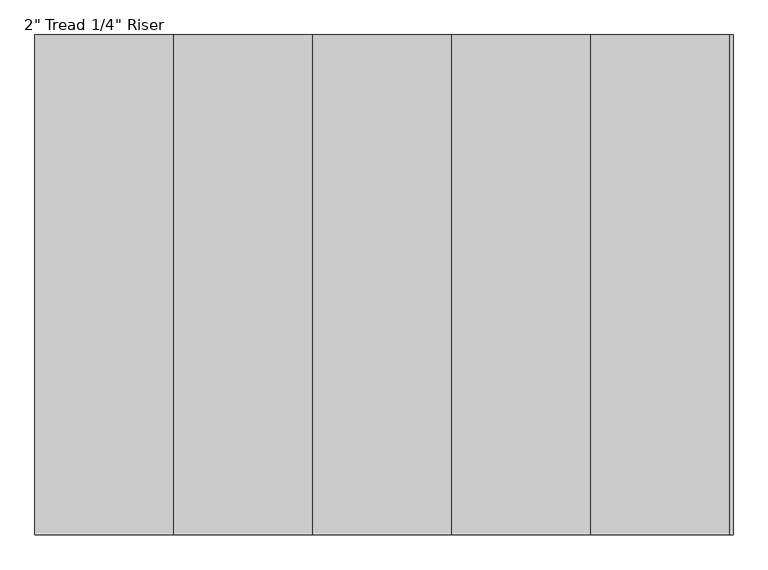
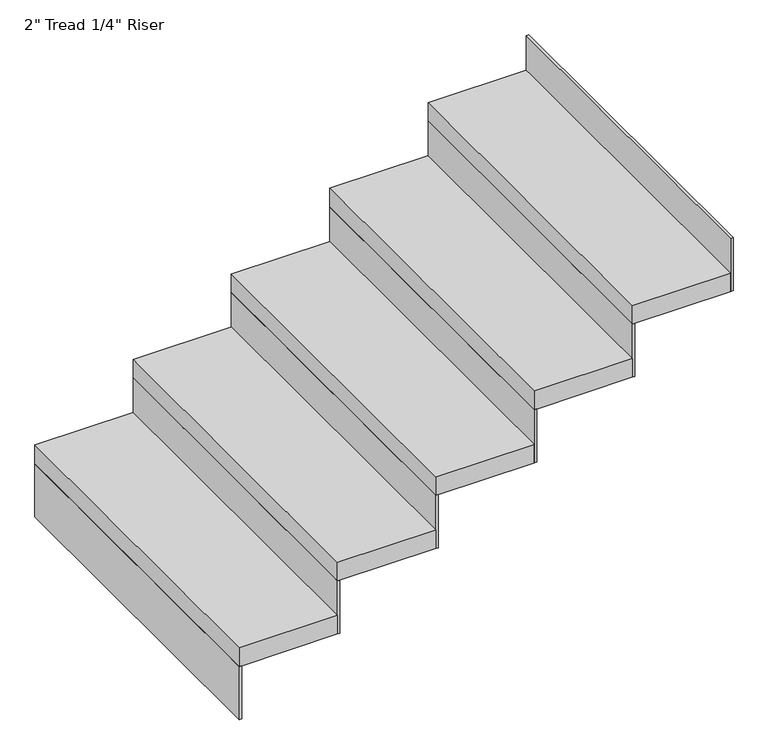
"""IFC4 building model written with IfcOpenShell, lengths in millimetres: stair flight geometry."""

import ifcopenshell
import ifcopenshell.guid

model = None  # the IFC model being written
_history = None  # IfcOwnerHistory: only IFC2X3 demands one
_inside = {}  # id of a spatial element -> (the spatial element, [elements in it])
_under = {}  # id of a project, library or spatial element -> (it, [spatial elements below it])
_declared = {}  # id of a project -> (the project, [libraries it declares])
_typed = {}  # id of a type object -> (the type object, [elements of that type])
_made_of = {}  # id of a material, layer set ... -> (it, [elements and type objects made of it])


def new_model(schema):
    """Start an empty IFC model of exactly this schema.

    Asked for "IFC4X3", IfcOpenShell would pick the latest addendum, in which some entities
    have other attributes; the version numbers below select the first issue.
    IFC2X3 requires an IfcOwnerHistory on every rooted entity: one is made here for all.
    """
    global model, _history
    if schema == "IFC4X3":
        model = ifcopenshell.file(schema_version=(4, 3, 0, 0))
    else:
        model = ifcopenshell.file(schema=schema)
    _inside.clear()
    _under.clear()
    _declared.clear()
    _typed.clear()
    _made_of.clear()
    _history = None
    if model.schema == "IFC2X3":
        org = make("IfcOrganization", Name="unknown")
        user = make(
            "IfcPersonAndOrganization",
            ThePerson=make("IfcPerson", FamilyName="unknown"),
            TheOrganization=org,
        )
        app = make(
            "IfcApplication",
            ApplicationDeveloper=org,
            Version="unknown",
            ApplicationFullName="unknown",
            ApplicationIdentifier="unknown",
        )
        _history = make(
            "IfcOwnerHistory",
            OwningUser=user,
            OwningApplication=app,
            ChangeAction="ADDED",
            CreationDate=0,
        )
    return model


def make(cls, **values):
    """One entity of the class cls with the attributes given. An attribute that is None is left unset."""
    return model.create_entity(
        cls, **{name: value for name, value in values.items() if value is not None}
    )


def rooted(cls, **values):
    """An entity with a GlobalId (a new one), such as an element, a storey or a relation."""
    return make(cls, GlobalId=ifcopenshell.guid.new(), OwnerHistory=_history, **values)


def si_unit(unit_type, name, prefix=None):
    """IfcSIUnit, for example si_unit("LENGTHUNIT", "METRE", prefix="MILLI")."""
    return make("IfcSIUnit", UnitType=unit_type, Prefix=prefix, Name=name)


def assignment(units):
    """IfcUnitAssignment: the units of a project."""
    return None if units is None else make("IfcUnitAssignment", Units=units)


def point(xyz):
    """IfcCartesianPoint."""
    return None if xyz is None else make("IfcCartesianPoint", Coordinates=xyz)


def direction(xyz):
    """IfcDirection."""
    return None if xyz is None else make("IfcDirection", DirectionRatios=xyz)


def frame(location, z_axis=None, x_axis=None):
    """IfcAxis2Placement3D, a coordinate frame: its origin and axes. An axis left out is left unset."""
    return make(
        "IfcAxis2Placement3D",
        Location=point(location),
        Axis=direction(z_axis),
        RefDirection=direction(x_axis),
    )


def origin():
    """The frame at (0, 0, 0) with its axes left unset."""
    return frame((0.0, 0.0, 0.0))


def place(relative_to, where):
    """IfcLocalPlacement: puts the frame where relative to a parent placement (None: the world)."""
    return make(
        "IfcLocalPlacement", PlacementRelTo=relative_to, RelativePlacement=where
    )


def context(
    kind, dimensions, precision=None, world=None, true_north=None, identifier=None
):
    """IfcGeometricRepresentationContext, for example the 3D "Model" context."""
    return make(
        "IfcGeometricRepresentationContext",
        ContextIdentifier=identifier,
        ContextType=kind,
        CoordinateSpaceDimension=dimensions,
        Precision=precision,
        WorldCoordinateSystem=world,
        TrueNorth=true_north,
    )


def project(units=None, contexts=None):
    """IfcProject with its units and contexts."""
    return rooted(
        "IfcProject",
        Name="project",
        RepresentationContexts=contexts,
        UnitsInContext=assignment(units),
    )


def spatial(cls, under=None, at=None, **own):
    """A site, building, storey or space (cls), placed at a placement, below another one or the project."""
    s = rooted(cls, ObjectPlacement=at, **own)
    if under is not None:
        _under.setdefault(under.id(), (under, []))[1].append(s)
    return s


def polyline(points):
    """IfcPolyline through the points."""
    return make("IfcPolyline", Points=[point(p) for p in points])


def outline(outer, holes=None, kind="AREA"):
    """IfcArbitraryClosedProfileDef: a profile drawn as a closed curve; with holes, ...WithVoids."""
    if holes is None:
        return make("IfcArbitraryClosedProfileDef", ProfileType=kind, OuterCurve=outer)
    return make(
        "IfcArbitraryProfileDefWithVoids",
        ProfileType=kind,
        OuterCurve=outer,
        InnerCurves=holes,
    )


def extrude(swept, where, along, depth):
    """IfcExtrudedAreaSolid: the profile swept, set in the frame where, extruded along a direction by depth."""
    return make(
        "IfcExtrudedAreaSolid",
        SweptArea=swept,
        Position=where,
        ExtrudedDirection=direction(along),
        Depth=depth,
    )


def shape(context_of_items, identifier, shape_type, items):
    """IfcShapeRepresentation: the items that make up one representation, for example the "Body"."""
    return make(
        "IfcShapeRepresentation",
        ContextOfItems=context_of_items,
        RepresentationIdentifier=identifier,
        RepresentationType=shape_type,
        Items=items,
    )


def source(mapping_origin, context_of_items, identifier, shape_type, items):
    """IfcRepresentationMap: a shape defined once, which mapped items show again and again."""
    return make(
        "IfcRepresentationMap",
        MappingOrigin=mapping_origin,
        MappedRepresentation=shape(context_of_items, identifier, shape_type, items),
    )


def transform(
    local_origin,
    x_axis=None,
    y_axis=None,
    z_axis=None,
    scale=None,
    scale2=None,
    scale3=None,
    uniform=True,
):
    """IfcCartesianTransformationOperator3D, or its non-uniform kind. x_axis, y_axis, z_axis: its Axis1, 2, 3."""
    if uniform:
        return make(
            "IfcCartesianTransformationOperator3D",
            Axis1=direction(x_axis),
            Axis2=direction(y_axis),
            LocalOrigin=point(local_origin),
            Scale=scale,
            Axis3=direction(z_axis),
        )
    return make(
        "IfcCartesianTransformationOperator3DnonUniform",
        Axis1=direction(x_axis),
        Axis2=direction(y_axis),
        LocalOrigin=point(local_origin),
        Scale=scale,
        Axis3=direction(z_axis),
        Scale2=scale2,
        Scale3=scale3,
    )


def mapped(mapping_source, mapping_target):
    """IfcMappedItem: shows the shape of a source again, moved by a transform."""
    return make(
        "IfcMappedItem", MappingSource=mapping_source, MappingTarget=mapping_target
    )


def made_of(thing, what):
    """Note that an element or type object is made of a material, layer set ...; save() writes the relation."""
    if what is not None:
        _made_of.setdefault(what.id(), (what, []))[1].append(thing)
    return thing


def element(
    cls,
    number,
    at=None,
    inside=None,
    cuts=None,
    type_object=None,
    material=None,
    context=None,
    identifier="Body",
    shape_type=None,
    held_by="IfcProductDefinitionShape",
    body=None,
    shapes=None,
    **own,
):
    """One element of the class cls, such as IfcWall. Its Tag is "e" and its number.

    at: its placement. inside: the storey or other place that contains it. cuts: it is an
    opening in that element (IfcRelVoidsElement). A single representation is given by context,
    identifier, shape_type and body (its items); several are given by shapes. held_by: the class
    of the entity that holds the representations. save() writes the other relations.
    """
    e = rooted(cls, Tag="e%d" % number, ObjectPlacement=at, **own)
    if body is not None:
        shapes = [shape(context, identifier, shape_type, body)]
    if shapes is not None:
        e.Representation = make(held_by, Representations=shapes)
    if inside is not None:
        _inside.setdefault(inside.id(), (inside, []))[1].append(e)
    if cuts is not None:
        rooted(
            "IfcRelVoidsElement", RelatingBuildingElement=cuts, RelatedOpeningElement=e
        )
    if type_object is not None:
        _typed.setdefault(type_object.id(), (type_object, []))[1].append(e)
    return made_of(e, material)


def aggregate(whole, parts):
    """IfcRelAggregates: a whole, such as a stair, and the parts it consists of."""
    return rooted("IfcRelAggregates", RelatingObject=whole, RelatedObjects=parts)


def save(model, path):
    """Write the relations noted so far, then the file.

    IfcRelAggregates (storeys below a building ...), IfcRelContainedInSpatialStructure (elements
    in a storey), IfcRelDefinesByType, IfcRelAssociatesMaterial and IfcRelDeclares: one each for
    every whole, place, type object, material and project.
    """
    for whole, parts in _under.values():
        aggregate(whole, parts)
    for where, things in _inside.values():
        rooted(
            "IfcRelContainedInSpatialStructure",
            RelatedElements=things,
            RelatingStructure=where,
        )
    for kind, things in _typed.values():
        rooted("IfcRelDefinesByType", RelatedObjects=things, RelatingType=kind)
    for what, things in _made_of.values():
        rooted("IfcRelAssociatesMaterial", RelatedObjects=things, RelatingMaterial=what)
    for by, libraries in _declared.values():
        rooted("IfcRelDeclares", RelatingContext=by, RelatedDefinitions=libraries)
    model.write(path)


def stair_flight_106992fd(model_context):
    return source(origin(), model_context, "Body", "SweptSolid", [
        extrude(outline(polyline([(113629.3286089, 32313.9530185), (113622.9786089, 32313.9530185), (113622.9786089, 33228.3530185), (113629.3286089, 33228.3530185), (113629.3286089, 32313.9530185)])), frame((0.0, 0.0, 2126.3428571), z_axis=(0.0, 0.0, 1.0), x_axis=(1.0, 0.0, 0.0)), (0.0, 0.0, 1.0), 145.1428571),
        extrude(outline(polyline([(113876.9786089, 33228.3530185), (113876.9786089, 32313.9530185), (113622.9786089, 32313.9530185), (113622.9786089, 33228.3530185), (113876.9786089, 33228.3530185)])), frame((0.0, 0.0, 2271.4857143), z_axis=(0.0, 0.0, 1.0), x_axis=(1.0, 0.0, 0.0)), (0.0, 0.0, 1.0), 50.8),
        extrude(outline(polyline([(113883.3286089, 32313.9530185), (113876.9786089, 32313.9530185), (113876.9786089, 33228.3530185), (113883.3286089, 33228.3530185), (113883.3286089, 32313.9530185)])), frame((0.0, 0.0, 2271.4857143), z_axis=(0.0, 0.0, 1.0), x_axis=(1.0, 0.0, 0.0)), (0.0, 0.0, 1.0), 145.1428571),
        extrude(outline(polyline([(114130.9786089, 33228.3530185), (114130.9786089, 32313.9530185), (113876.9786089, 32313.9530185), (113876.9786089, 33228.3530185), (114130.9786089, 33228.3530185)])), frame((0.0, 0.0, 2416.6285714), z_axis=(0.0, 0.0, 1.0), x_axis=(1.0, 0.0, 0.0)), (0.0, 0.0, 1.0), 50.8),
        extrude(outline(polyline([(114137.3286089, 32313.9530185), (114130.9786089, 32313.9530185), (114130.9786089, 33228.3530185), (114137.3286089, 33228.3530185), (114137.3286089, 32313.9530185)])), frame((0.0, 0.0, 2416.6285714), z_axis=(0.0, 0.0, 1.0), x_axis=(1.0, 0.0, 0.0)), (0.0, 0.0, 1.0), 145.1428571),
        extrude(outline(polyline([(114384.9786089, 33228.3530185), (114384.9786089, 32313.9530185), (114130.9786089, 32313.9530185), (114130.9786089, 33228.3530185), (114384.9786089, 33228.3530185)])), frame((0.0, 0.0, 2561.7714286), z_axis=(0.0, 0.0, 1.0), x_axis=(1.0, 0.0, 0.0)), (0.0, 0.0, 1.0), 50.8),
        extrude(outline(polyline([(114391.3286089, 32313.9530185), (114384.9786089, 32313.9530185), (114384.9786089, 33228.3530185), (114391.3286089, 33228.3530185), (114391.3286089, 32313.9530185)])), frame((0.0, 0.0, 2561.7714286), z_axis=(0.0, 0.0, 1.0), x_axis=(1.0, 0.0, 0.0)), (0.0, 0.0, 1.0), 145.1428571),
        extrude(outline(polyline([(114638.9786089, 33228.3530185), (114638.9786089, 32313.9530185), (114384.9786089, 32313.9530185), (114384.9786089, 33228.3530185), (114638.9786089, 33228.3530185)])), frame((0.0, 0.0, 2706.9142857), z_axis=(0.0, 0.0, 1.0), x_axis=(1.0, 0.0, 0.0)), (0.0, 0.0, 1.0), 50.8),
        extrude(outline(polyline([(114645.3286089, 32313.9530185), (114638.9786089, 32313.9530185), (114638.9786089, 33228.3530185), (114645.3286089, 33228.3530185), (114645.3286089, 32313.9530185)])), frame((0.0, 0.0, 2706.9142857), z_axis=(0.0, 0.0, 1.0), x_axis=(1.0, 0.0, 0.0)), (0.0, 0.0, 1.0), 145.1428571),
        extrude(outline(polyline([(114899.3286089, 32313.9530185), (114892.9786089, 32313.9530185), (114892.9786089, 33228.3530185), (114899.3286089, 33228.3530185), (114899.3286089, 32313.9530185)])), frame((0.0, 0.0, 2852.0571429), z_axis=(0.0, 0.0, 1.0), x_axis=(1.0, 0.0, 0.0)), (0.0, 0.0, 1.0), 145.1428571),
        extrude(outline(polyline([(114892.9786089, 33228.3530185), (114892.9786089, 32313.9530185), (114638.9786089, 32313.9530185), (114638.9786089, 33228.3530185), (114892.9786089, 33228.3530185)])), frame((0.0, 0.0, 2852.0571429), z_axis=(0.0, 0.0, 1.0), x_axis=(1.0, 0.0, 0.0)), (0.0, 0.0, 1.0), 50.8),
    ])


if __name__ == "__main__":
    model = new_model("IFC4")
    model_context = context("Model", 3, world=origin())
    ifc_project = project(units=[si_unit("LENGTHUNIT", "METRE", prefix="MILLI")], contexts=[model_context])
    site = spatial("IfcSite", under=ifc_project)
    building = spatial("IfcBuilding", under=site)
    placement = place(None, origin())
    stair_flight_shape = stair_flight_106992fd(model_context)
    element("IfcStairFlight", 1, ObjectType="2\" Tread 1/4\" Riser", at=placement, inside=building, context=model_context, shape_type="MappedRepresentation", body=[
        mapped(stair_flight_shape, transform((0.0, 0.0, 0.0), x_axis=(1.0, 0.0, 0.0), y_axis=(0.0, 1.0, 0.0), z_axis=(0.0, 0.0, 1.0))),
    ])
    save(model, "model.ifc")
